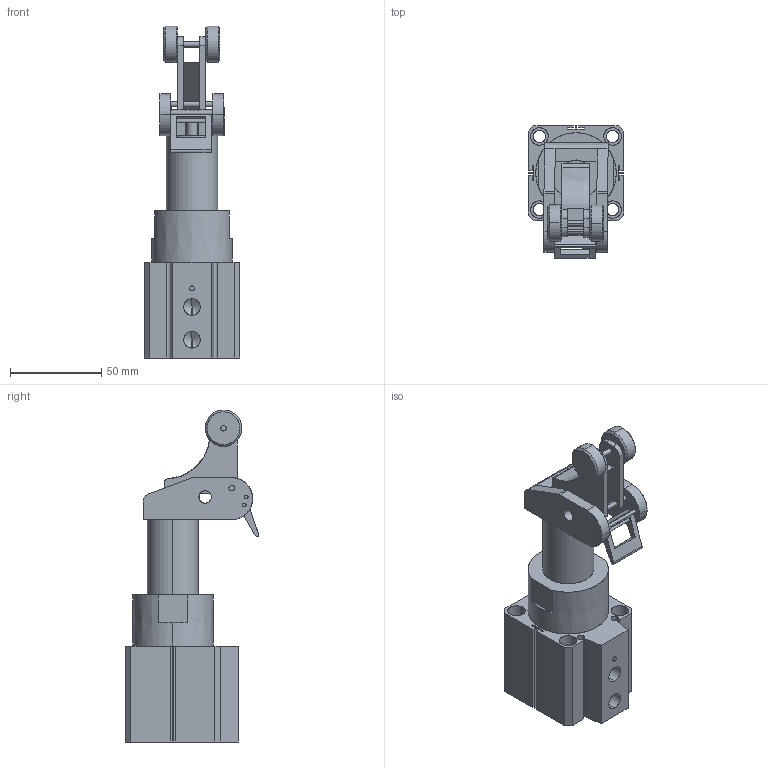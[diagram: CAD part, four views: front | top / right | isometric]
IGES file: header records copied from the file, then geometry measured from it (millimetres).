
Start section: SolidWorks IGES file using analytic representation for surfaces
Global section: file name: F:\elod\elod 40\course 20\elod40-20.IGS; native system: SolidWorks 2010; preprocessor: SolidWorks 2010; author: 1EDPI; date: 110512.101712; units: millimetre
Bounding box: 52 x 72.88 x 181.72 mm (x, y, z)
Surface area: 53282.6 mm2 (no closed solid volume)
Topology: 0 solids, 0 shells, 240 faces, 4057 edges, 4051 vertices
Faces by surface type: revolution 121, bspline 119
